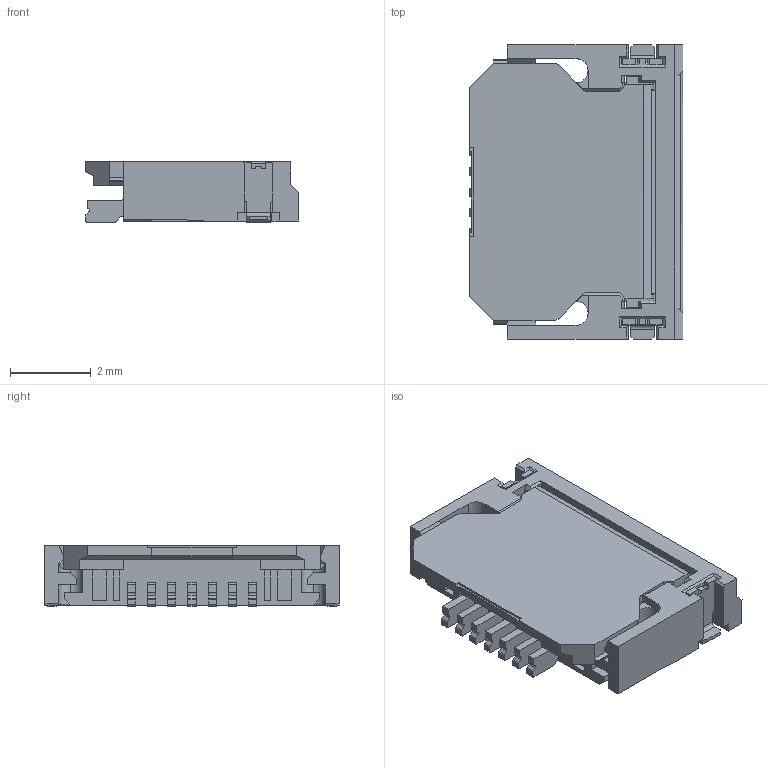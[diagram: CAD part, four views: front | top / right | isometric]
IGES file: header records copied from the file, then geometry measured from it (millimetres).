
Start section: START RECORD GO HERE.
Global section: file name: 00_6808_607_000_846_+.igs; native system: DASSAULT SYSTEMES CATIA V5 R19 - www.3ds.com; preprocessor: CATIA Version 5 Release 19 SP 8 ; author: User; organization: CATIA11; date: 20140227.110558; units: millimetre
Bounding box: 5.3 x 7.3 x 1.5 mm (x, y, z)
Volume: 36.1 mm3; surface area: 200.9 mm2
Topology: 8 solids, 8 shells, 537 faces, 1517 edges, 978 vertices
Faces by surface type: plane 423, revolution 108, bspline 6
